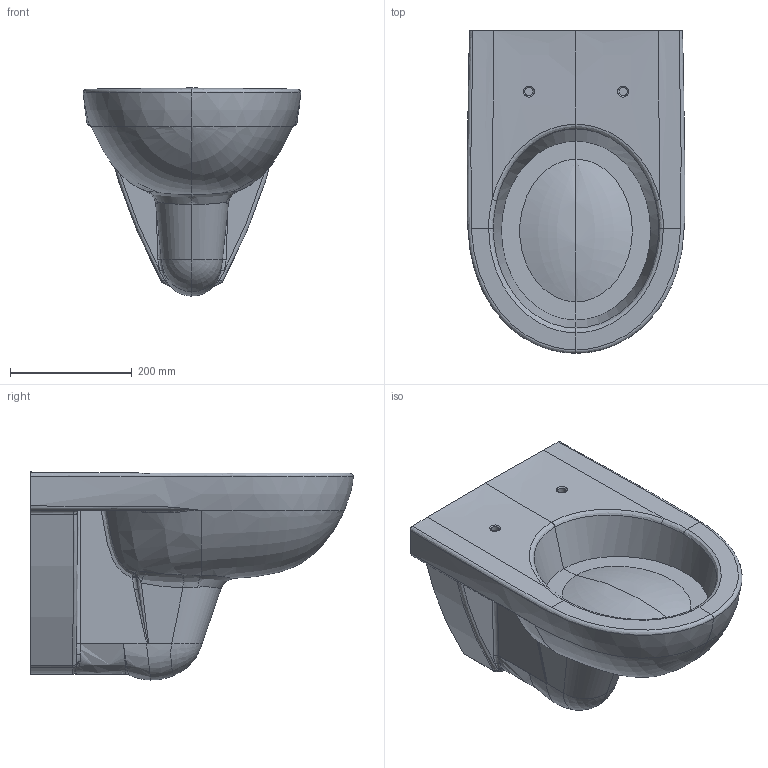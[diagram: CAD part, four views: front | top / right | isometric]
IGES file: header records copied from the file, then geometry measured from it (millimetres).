
Global section: file name: 500260; native system: Autodesk Inventor 2018; preprocessor: unknown; author: JANAN; date: 20200527.082358; units: millimetre
Bounding box: 357.39 x 530.04 x 341.8 mm (x, y, z)
Volume: 22342002.2 mm3; surface area: 711428.1 mm2
Topology: 1 solids, 1 shells, 140 faces, 352 edges, 203 vertices
Faces by surface type: bspline 140
